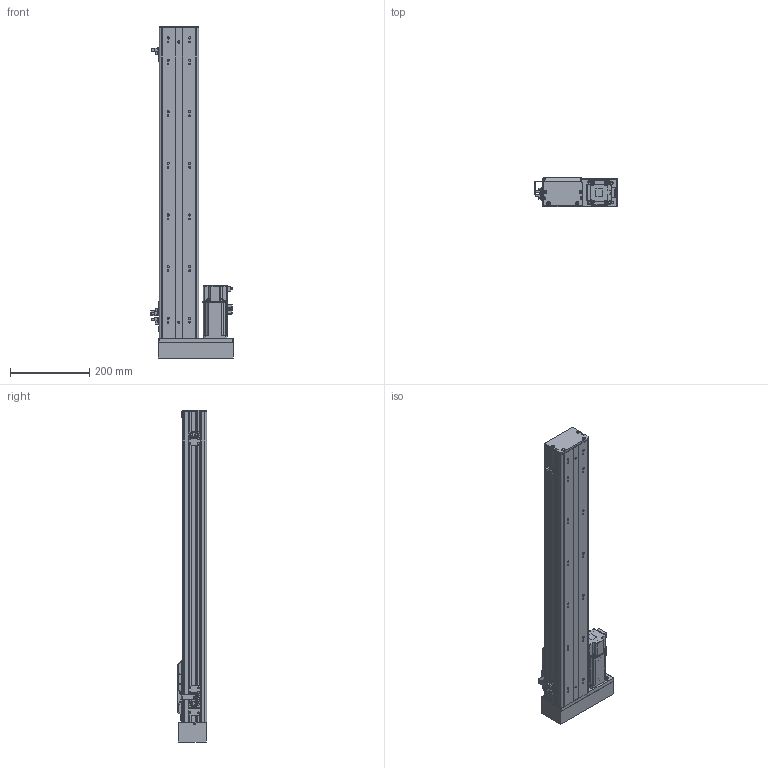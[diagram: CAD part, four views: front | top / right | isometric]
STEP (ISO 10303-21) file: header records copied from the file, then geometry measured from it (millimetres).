
FILE_DESCRIPTION (( 'STEP AP203' ), '1' );
FILE_NAME ('BOSW100-600-1610-1P-LM-M400W-O-S3（方程式2016）.step', '2020-10-10T06:56:53', ( '' ), ( '' ), 'SwSTEP 2.0', 'SolidWorks 2016', '' );
FILE_SCHEMA (( 'CONFIG_CONTROL_DESIGN' ));
Length unit declared in the file: millimetre
Products named in the file (14): boS-100-LM&RM-三菱M400W马达板-宽轨; 俋境嫖覜嘐隅啣; BOSW&TW-100-詩湍揤沭(陔賦凳); BOSW&TW-100-1P-賑雄釱欶; BOSW100-600-1610-1P-LM-M400W-O-S3（方程式2016）; BOSW-100-綴裔啣; BOSW-100-1P-DM-宽轨-侧板-600客户图纸; S400W(SMA-L040); BOSW-100-1P-DM-宽轨-钢带-600客户图纸; BOSW-100-1P-DM-600諦誧芞; 新结构AIMSW-100-1P-宽&高轨共用-滑动座上组件; AIMS(W)-100-LM&RM-肮祭謫欶; BOSW&TW-100-俋离覜茼え; 放大器内置U型微型光电传感器PM-L65
Assembly tree (19 placements, depth 2):
  BOSW100-600-1610-1P-LM-M400W-O-S3（方程式2016）
    BOSW-100-1P-DM-600諦誧芞
    BOSW-100-綴裔啣
    新结构AIMSW-100-1P-宽&高轨共用-滑动座上组件
    S400W(SMA-L040)
    BOSW&TW-100-詩湍揤沭(陔賦凳)  x2
    BOSW&TW-100-1P-賑雄釱欶
    BOSW&TW-100-俋离覜茼え
    俋境嫖覜嘐隅啣  x3
    放大器内置U型微型光电传感器PM-L65  x3
    BOSW-100-1P-DM-宽轨-侧板-600客户图纸  x2
    BOSW-100-1P-DM-宽轨-钢带-600客户图纸
    AIMS(W)-100-LM&RM-肮祭謫欶
    boS-100-LM&RM-三菱M400W马达板-宽轨
Bounding box: 207.9 x 75 x 836 mm (x, y, z)
Volume: 1915065.4 mm3; surface area: 908511.4 mm2
Topology: 19 solids, 20 shells, 2535 faces, 6693 edges, 4271 vertices
Faces by surface type: plane 1243, cylinder 806, bspline 271, cone 167, torus 36, sphere 12
Entity records: 69624 total; most frequent: CARTESIAN_POINT 20854, ORIENTED_EDGE 9926, DIRECTION 9615, EDGE_CURVE 4963, AXIS2_PLACEMENT_3D 3411, VERTEX_POINT 3173, VECTOR 2793, LINE 2793
